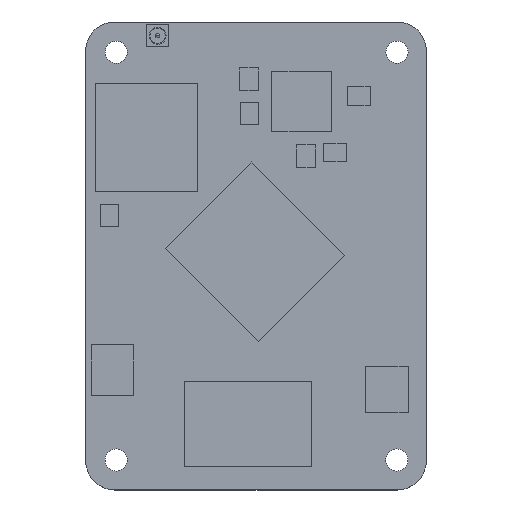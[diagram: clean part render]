
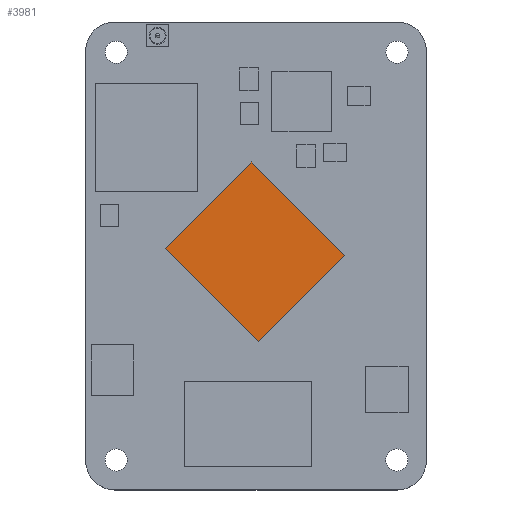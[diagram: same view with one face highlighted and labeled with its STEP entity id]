
A CAD part, top view. The second image highlights one B-rep face of the part: STEP entity #3981.
In plain terms, the highlighted planar face has unit normal (0, 0, 1).
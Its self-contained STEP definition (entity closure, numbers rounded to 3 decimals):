
#2030=DIRECTION('',(0.707,-0.707,0.));
#2031=VECTOR('',#2030,15.492);
#2032=CARTESIAN_POINT('',(-10.761,0.843,0.8));
#2033=LINE('',#2032,#2031);
#2037=DIRECTION('',(-0.707,-0.707,0.));
#2038=VECTOR('',#2037,14.388);
#2039=CARTESIAN_POINT('',(-0.587,11.017,0.8));
#2040=LINE('',#2039,#2038);
#2044=DIRECTION('',(-0.707,0.707,0.));
#2045=VECTOR('',#2044,15.492);
#2046=CARTESIAN_POINT('',(10.367,0.063,0.8));
#2047=LINE('',#2046,#2045);
#2051=DIRECTION('',(0.707,0.707,0.));
#2052=VECTOR('',#2051,14.388);
#2053=CARTESIAN_POINT('',(0.193,-10.112,0.8));
#2054=LINE('',#2053,#2052);
#2876=CARTESIAN_POINT('',(-10.761,0.843,0.8));
#2877=CARTESIAN_POINT('',(0.193,-10.112,0.8));
#2878=VERTEX_POINT('',#2876);
#2879=VERTEX_POINT('',#2877);
#2880=CARTESIAN_POINT('',(10.367,0.063,0.8));
#2881=VERTEX_POINT('',#2880);
#2882=CARTESIAN_POINT('',(-0.587,11.017,0.8));
#2883=VERTEX_POINT('',#2882);
#3970=CARTESIAN_POINT('',(0.,0.,0.8));
#3971=DIRECTION('',(0.,0.,1.));
#3972=DIRECTION('',(1.,0.,0.));
#3973=AXIS2_PLACEMENT_3D('',#3970,#3971,#3972);
#3974=PLANE('',#3973);
#3975=ORIENTED_EDGE('',*,*,#3874,.F.);
#3976=ORIENTED_EDGE('',*,*,#3901,.F.);
#3977=ORIENTED_EDGE('',*,*,#3927,.F.);
#3978=ORIENTED_EDGE('',*,*,#3952,.F.);
#3979=EDGE_LOOP('',(#3975,#3976,#3977,#3978));
#3980=FACE_OUTER_BOUND('',#3979,.F.);
#3981=ADVANCED_FACE('',(#3980),#3974,.T.);
#3874=EDGE_CURVE('',#2878,#2879,#2033,.T.);
#3901=EDGE_CURVE('',#2883,#2878,#2040,.T.);
#3927=EDGE_CURVE('',#2881,#2883,#2047,.T.);
#3952=EDGE_CURVE('',#2879,#2881,#2054,.T.);
